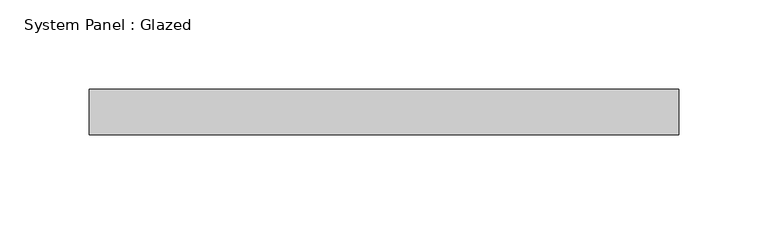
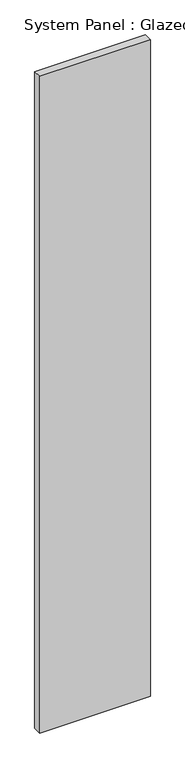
"""IFC4 building model written with IfcOpenShell, lengths in millimetres: plate geometry, System Panel : Glazed."""

from ifc_helpers import new_model, si_unit, origin, origin_with_axes, place, context, project, spatial, polyline, outline, extrude, source, transform, mapped, element, save


def system_panel_glazed_a3383988(model_context):
    return source(origin(), model_context, "Body", "SweptSolid", [
        extrude(outline(polyline([(165.0999998, -44.45), (-165.0999998, -44.45), (-165.0999998, -19.05), (165.0999998, -19.05), (165.0999998, -44.45)])), origin_with_axes(), (0.0, 0.0, 1.0), 2070.1),
    ])


if __name__ == "__main__":
    model = new_model("IFC4")
    model_context = context("Model", 3, world=origin())
    ifc_project = project(units=[si_unit("LENGTHUNIT", "METRE", prefix="MILLI")], contexts=[model_context])
    site = spatial("IfcSite", under=ifc_project)
    building = spatial("IfcBuilding", under=site)
    placement = place(None, origin())
    system_panel_glazed_shape = system_panel_glazed_a3383988(model_context)
    element("IfcPlate", 1, ObjectType="System Panel : Glazed", at=placement, inside=building, context=model_context, shape_type="MappedRepresentation", body=[
        mapped(system_panel_glazed_shape, transform((0.0, 0.0, 0.0), x_axis=(1.0, 0.0, 0.0), y_axis=(0.0, 1.0, 0.0), z_axis=(0.0, 0.0, 1.0))),
    ])
    save(model, "model.ifc")
